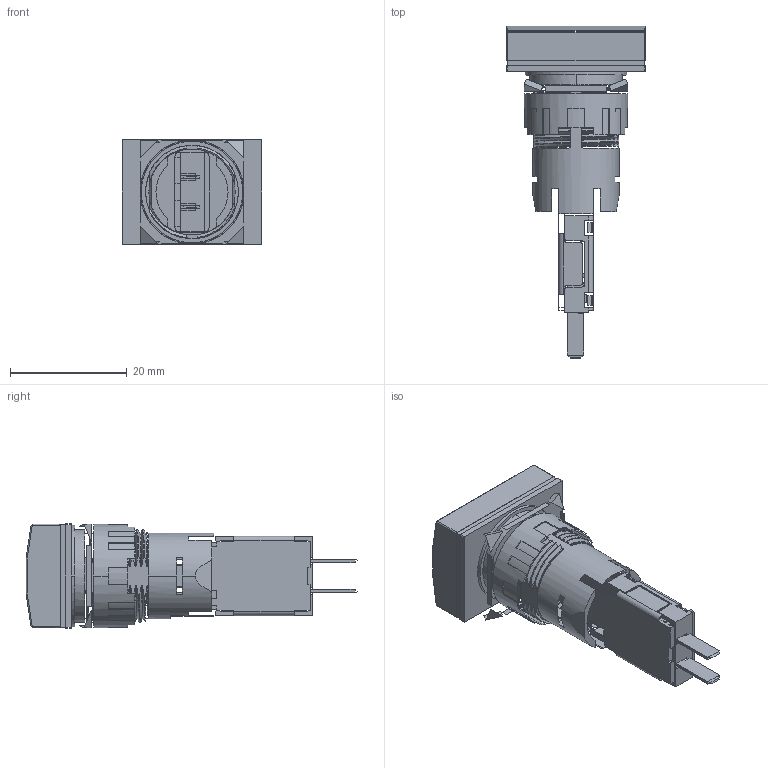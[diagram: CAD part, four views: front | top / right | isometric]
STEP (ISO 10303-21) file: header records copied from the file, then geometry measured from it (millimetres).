
FILE_DESCRIPTION((''),'2;1');
FILE_NAME('152926900A53_SW0001','2016-04-04T',('EBBX743'),('Schneider-Electric'),'PRO/ENGINEER BY PARAMETRIC TECHNOLOGY CORPORATION, 2014310','PRO/ENGINEER BY PARAMETRIC TECHNOLOGY CORPORATION, 2014310','');
FILE_SCHEMA(('CONFIG_CONTROL_DESIGN'));
Length unit declared in the file: millimetre
Products named in the file (1): 152926900A53_SW0001
Bounding box: 23.95 x 56.89 x 17.95 mm (x, y, z)
Surface area: 3835.7 mm2 (no closed solid volume)
Topology: 0 solids, 48 shells, 199 faces, 1194 edges, 1024 vertices
Faces by surface type: plane 79, cylinder 73, bspline 45, torus 2
Entity records: 24412 total; most frequent: CARTESIAN_POINT 16209, ORIENTED_EDGE 1430, DIRECTION 1420, EDGE_CURVE 1194, VERTEX_POINT 1024, VECTOR 760, LINE 760, AXIS2_PLACEMENT_3D 330
